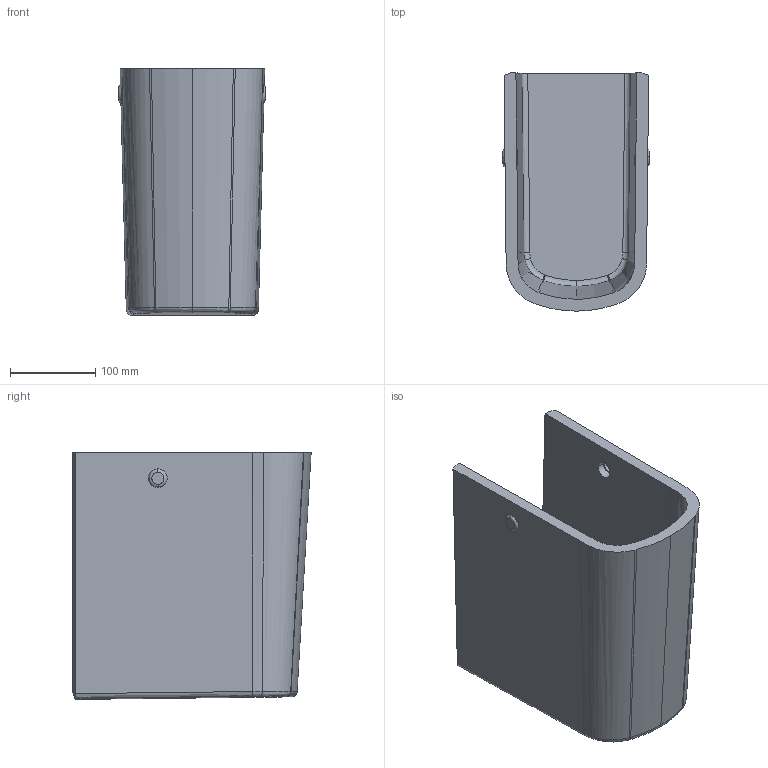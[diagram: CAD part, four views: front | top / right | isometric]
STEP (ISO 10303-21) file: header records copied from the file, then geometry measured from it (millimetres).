
FILE_DESCRIPTION(/* description */ (''),/* implementation_level */ '2;1');
FILE_NAME(/* name */ '085843',/* time_stamp */ '2021-06-21T09:11:16+02:00',/* author */ (''),/* organization */ (''),/* preprocessor_version */ 'ST-DEVELOPER v15',/* originating_system */ '',/* authorisation */ '');
FILE_SCHEMA (('AUTOMOTIVE_DESIGN'));
Length unit declared in the file: millimetre
Products named in the file (1): Document
Bounding box: 172.54 x 280 x 289.96 mm (x, y, z)
Volume: 2939927.2 mm3; surface area: 439484 mm2
Topology: 3 solids, 3 shells, 71 faces, 165 edges, 104 vertices
Faces by surface type: bspline 58, plane 13
Entity records: 5369 total; most frequent: CARTESIAN_POINT 4295, ORIENTED_EDGE 330, EDGE_CURVE 165, B_SPLINE_CURVE_WITH_KNOTS 134, VERTEX_POINT 104, EDGE_LOOP 79, ADVANCED_FACE 71, FACE_OUTER_BOUND 71
